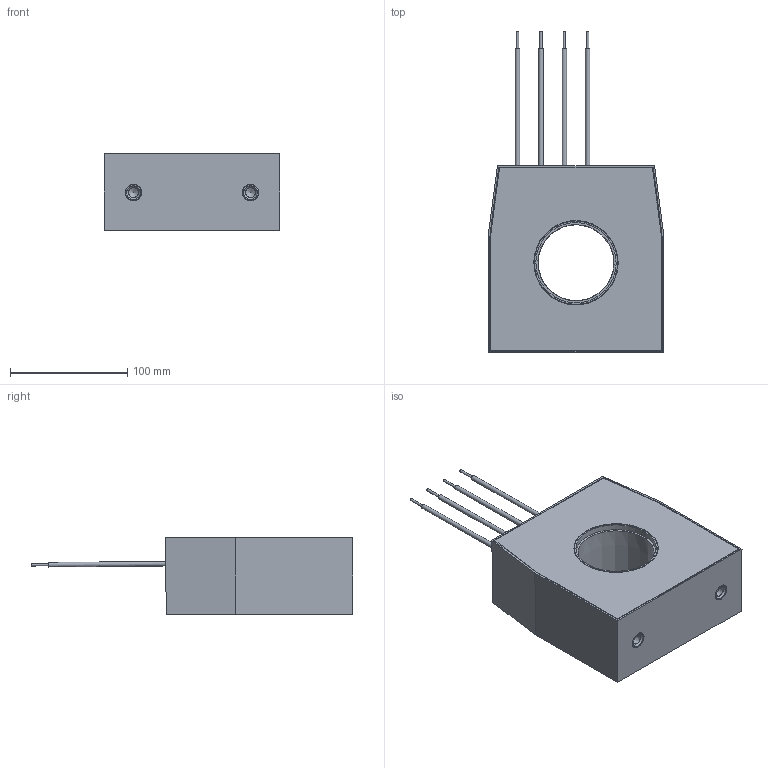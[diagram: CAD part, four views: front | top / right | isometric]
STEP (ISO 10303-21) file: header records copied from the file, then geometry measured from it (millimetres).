
FILE_DESCRIPTION(('STEP AP203'), '1');
FILE_NAME('ÒØÏ-ÍÒÇ-0,66-81Ñ (65 ìì, 1-é ãàáàðèò)', '2025-08-27T09:44:40', ('UNSPECIFIED'), ('UNSPECIFIED'), 'ASCON STEP Converter 1.3', 'ASCON Math Kernel', '');
FILE_SCHEMA(('CONFIG_CONTROL_DESIGN'));
Length unit declared in the file: millimetre
Assembly tree (9 placements, depth 2):
  (unnamed)
    (unnamed)
    (unnamed)
    (unnamed)  x2
    (unnamed)
    (unnamed)  x4
Bounding box: 150 x 274.81 x 65 mm (x, y, z)
Volume: 336496.7 mm3; surface area: 197060.8 mm2
Topology: 9 solids, 9 shells, 111 faces, 222 edges, 143 vertices
Faces by surface type: plane 65, cylinder 31, cone 11, torus 4
Full cylindrical faces by diameter (mm): 2 x4, 3.9 x4, 4 x5, 8.376 x2, 14 x4, 17 x2, 65 x1, 65.05 x1, 68.599 x2, 68.6 x1, 71 x1
Entity records: 3276 total; most frequent: CARTESIAN_POINT 391, DIRECTION 390, ORIENTED_EDGE 310, EDGE_CURVE 155, AXIS2_PLACEMENT_3D 145, EDGE_LOOP 133, VERTEX_POINT 118, LINE 100
